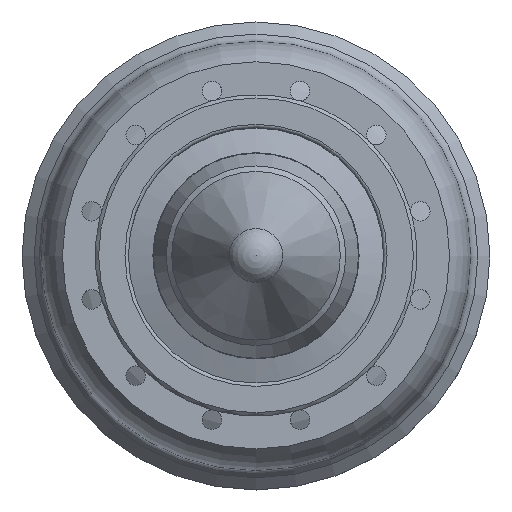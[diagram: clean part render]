
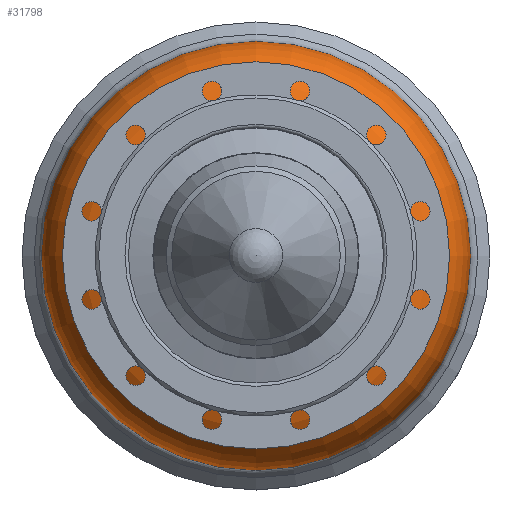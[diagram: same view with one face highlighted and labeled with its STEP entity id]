
A CAD part, top view. The second image highlights one B-rep face of the part: STEP entity #31798.
In plain terms, the highlighted toroidal (fillet/blend) face has major radius 159.5 mm and minor radius 93 mm.
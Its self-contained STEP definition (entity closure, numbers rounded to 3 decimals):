
#53=TOROIDAL_SURFACE('',#33834,159.5,93.);
#8646=ORIENTED_EDGE('',*,*,#12231,.T.);
#8647=ORIENTED_EDGE('',*,*,#12233,.F.);
#12231=EDGE_CURVE('',#14492,#14492,#15539,.T.);
#12233=EDGE_CURVE('',#14494,#14494,#15541,.T.);
#14492=VERTEX_POINT('',#61917);
#14494=VERTEX_POINT('',#61923);
#15539=CIRCLE('',#33831,187.82);
#15541=CIRCLE('',#33835,252.09);
#17323=EDGE_LOOP('',(#8646));
#17324=EDGE_LOOP('',(#8647));
#19393=FACE_BOUND('',#17323,.T.);
#19394=FACE_BOUND('',#17324,.T.);
#31798=ADVANCED_FACE('',(#19393,#19394),#53,.T.);
#33831=AXIS2_PLACEMENT_3D('',#61916,#38706,#38707);
#33834=AXIS2_PLACEMENT_3D('',#61921,#38712,#38713);
#33835=AXIS2_PLACEMENT_3D('',#61922,#38714,#38715);
#38706=DIRECTION('',(0.,0.,-1.));
#38707=DIRECTION('',(1.,0.,0.));
#38712=DIRECTION('',(0.,0.,-1.));
#38713=DIRECTION('',(1.,0.,0.));
#38714=DIRECTION('',(0.,0.,-1.));
#38715=DIRECTION('',(1.,0.,0.));
#61916=CARTESIAN_POINT('',(0.,0.,
431.583));
#61917=CARTESIAN_POINT('',(187.82,0.,431.583));
#61921=CARTESIAN_POINT('',(0.,0.,
343.));
#61922=CARTESIAN_POINT('',(0.,0.,
334.281));
#61923=CARTESIAN_POINT('',(252.09,0.,334.281));
